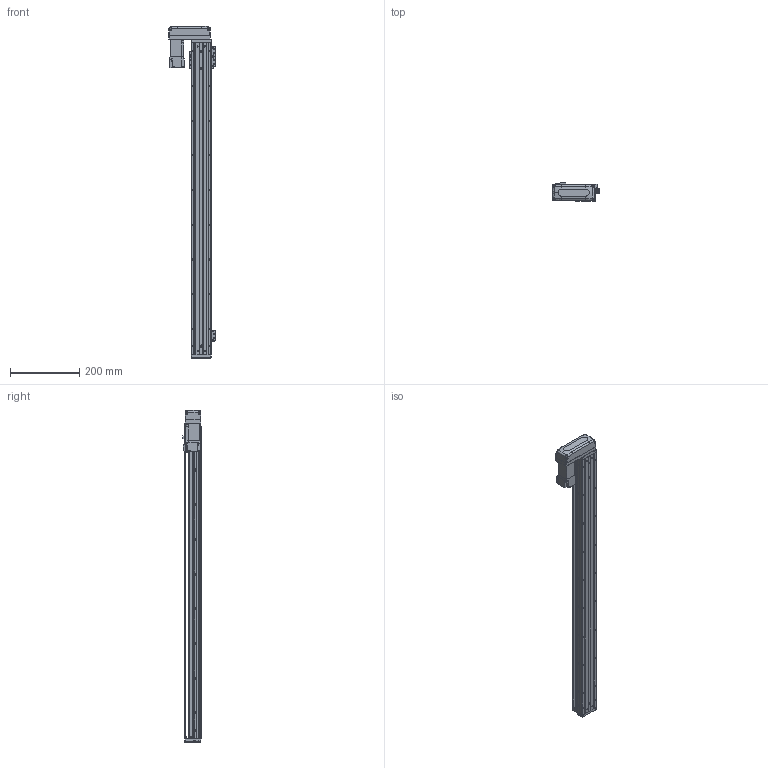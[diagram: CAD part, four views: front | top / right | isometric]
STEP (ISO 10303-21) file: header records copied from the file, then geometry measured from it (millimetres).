
FILE_DESCRIPTION (( 'STEP AP203' ), '1' );
FILE_NAME ('KTHA50-800-BR-M10-C4L.step', '2022-03-19T07:16:57', ( '微软用户' ), ( '微软中国' ), 'SwSTEP 2.0', 'SolidWorks 2020', '' );
FILE_SCHEMA (( 'CONFIG_CONTROL_DESIGN' ));
Length unit declared in the file: millimetre
Products named in the file (18): CTHA60-021; KTHA50-800-BR-M10-C4L; EE_SX911P_R; GBT 70.3-M3℅6; GBT77-2000 M3×3; HG-KR13（三菱）; KTHA50-001_900; GBT 70.1-M3℅6; CTHA50-015-2_CTHA60-015-2; KTHA50-002; CTHA60-017; CTHA60-033; KTHA50-004; GBT 70.1-M4×12; GBT 70.1-M3×15; KTHA50-005; CTHA60-016; GB¨uT 70.2-M3¡Á6_M3¡Á6
Assembly tree (53 placements, depth 2):
  KTHA50-800-BR-M10-C4L
    KTHA50-001_900
    KTHA50-002
    KTHA50-004
    KTHA50-005
    GB¨uT 70.2-M3¡Á6_M3¡Á6  x6
    EE_SX911P_R  x3
    GBT77-2000 M3×3  x6
    GBT 70.1-M3℅6  x6
    CTHA60-017  x3
    GBT 70.1-M4×12  x10
    CTHA60-016  x2
    CTHA60-021  x2
    GBT 70.3-M3℅6  x4
    HG-KR13（三菱）
    CTHA50-015-2_CTHA60-015-2
    CTHA60-033
    GBT 70.1-M3×15  x4
Bounding box: 133.82 x 52.3 x 957 mm (x, y, z)
Volume: 1816490.6 mm3; surface area: 443920.2 mm2
Topology: 56 solids, 56 shells, 2343 faces, 5575 edges, 3424 vertices
Faces by surface type: plane 1312, cylinder 574, cone 315, torus 100, bspline 26, sphere 16
Entity records: 40819 total; most frequent: CARTESIAN_POINT 7682, DIRECTION 6405, ORIENTED_EDGE 6162, EDGE_CURVE 3081, AXIS2_PLACEMENT_3D 2163, VECTOR 2079, LINE 2079, VERTEX_POINT 1938
